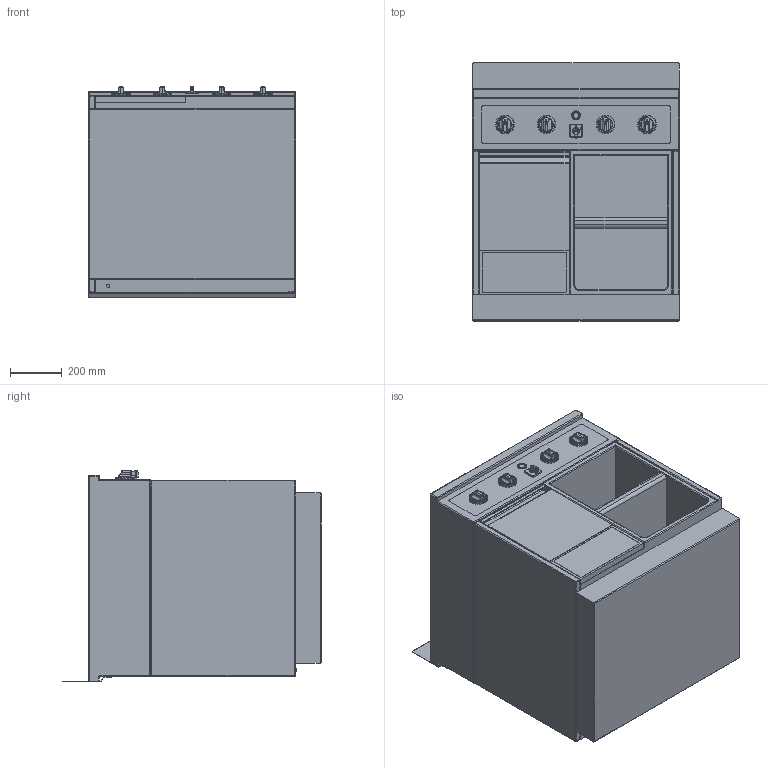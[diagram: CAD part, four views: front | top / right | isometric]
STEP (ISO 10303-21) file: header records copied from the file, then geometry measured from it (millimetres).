
FILE_DESCRIPTION (( 'STEP AP214' ), '1' );
FILE_NAME ('MS-I-Worker M.STEP', '2019-09-05T13:30:52', ( '' ), ( '' ), 'SwSTEP 2.0', 'SolidWorks 2019', '' );
FILE_SCHEMA (( 'AUTOMOTIVE_DESIGN' ));
Length unit declared in the file: millimetre
Products named in the file (1): MS-I-Worker M
Bounding box: 800.1 x 999.98 x 818.45 mm (x, y, z)
Volume: 434343580.5 mm3; surface area: 5952242.2 mm2
Topology: 1 solids, 5 shells, 1203 faces, 3013 edges, 1920 vertices
Faces by surface type: plane 580, cylinder 410, bspline 150, torus 41, sphere 17, cone 5
Entity records: 41781 total; most frequent: CARTESIAN_POINT 13716, ORIENTED_EDGE 5992, DIRECTION 5580, EDGE_CURVE 2996, AXIS2_PLACEMENT_3D 1925, VERTEX_POINT 1920, VECTOR 1730, LINE 1730
